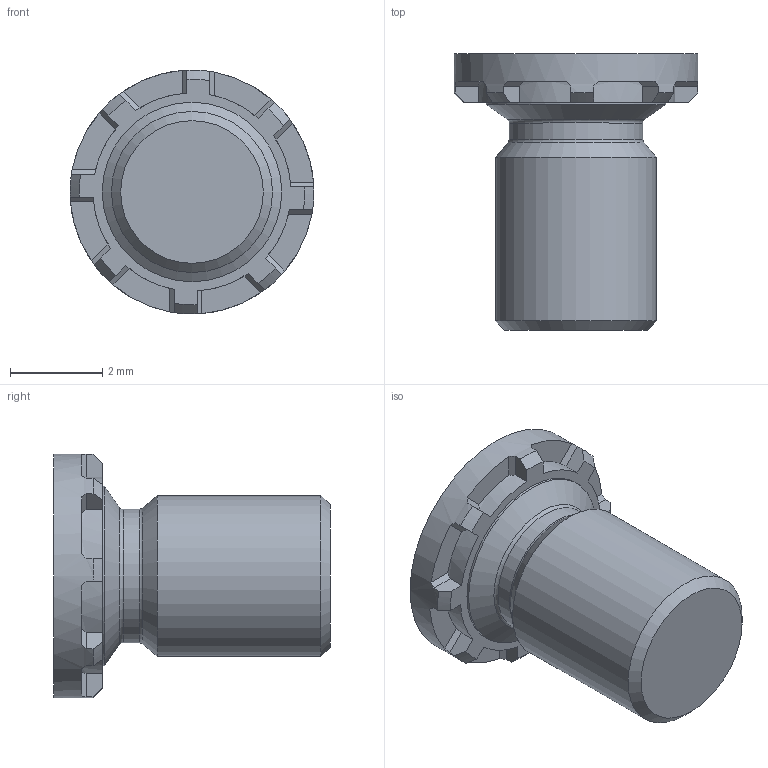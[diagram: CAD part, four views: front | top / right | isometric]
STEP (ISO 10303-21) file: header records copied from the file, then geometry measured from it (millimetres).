
FILE_DESCRIPTION(/* description */ (''),/* implementation_level */ '2;1');
FILE_NAME(/* name */ 'C:\Users\keval.kumar\Desktop\Fastit\Clinch Screw- FH Range\M3.5\Clinch Screw-FH Range_M3.5x6.stp',/* time_stamp */ '2024-03-12T11:53:59+05:00',/* author */ ('keval.kumar'),/* organization */ (''),/* preprocessor_version */ 'ST-DEVELOPER v18.1',/* originating_system */ 'Autodesk Inventor 2022',/* authorisation */ '');
FILE_SCHEMA (('AUTOMOTIVE_DESIGN { 1 0 10303 214 3 1 1 }'));
Length unit declared in the file: millimetre
Products named in the file (1): Clinch Screw-FH Range_M3.5x6
Bounding box: 5.3 x 6 x 5.3 mm (x, y, z)
Volume: 66.1 mm3; surface area: 115.9 mm2
Topology: 1 solids, 1 shells, 68 faces, 193 edges, 128 vertices
Faces by surface type: plane 43, cylinder 12, cone 11, torus 2
Full cylindrical faces by diameter (mm): 2.9 x1, 3.5 x1, 3.9 x1, 5.3 x1
Entity records: 2278 total; most frequent: CARTESIAN_POINT 422, DIRECTION 405, ORIENTED_EDGE 386, EDGE_CURVE 193, AXIS2_PLACEMENT_3D 159, VERTEX_POINT 128, LINE 87, VECTOR 87
